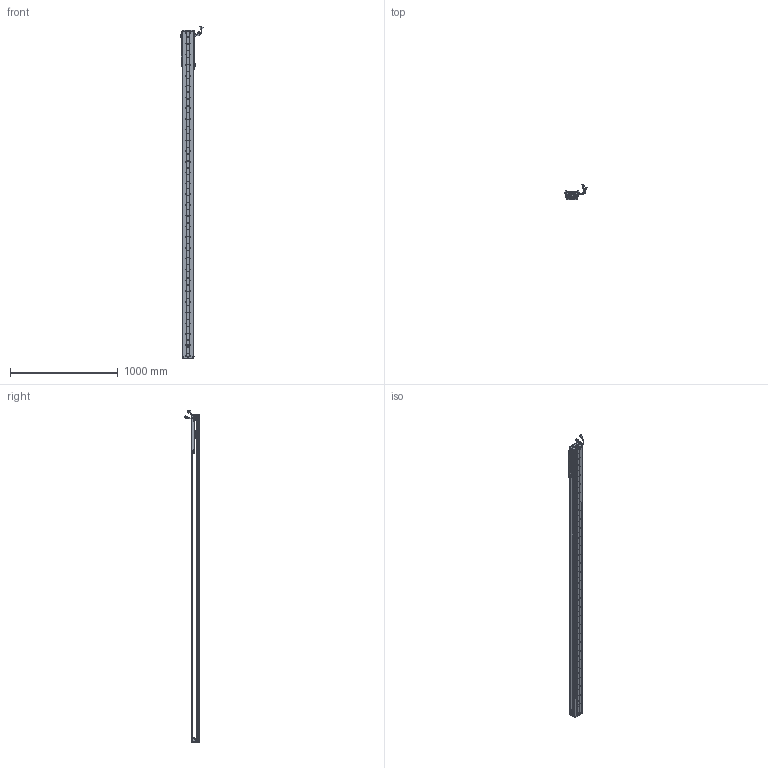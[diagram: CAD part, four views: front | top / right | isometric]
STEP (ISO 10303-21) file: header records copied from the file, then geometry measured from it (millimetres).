
FILE_DESCRIPTION (( 'STEP AP203' ), '1' );
FILE_NAME ('Z4-RY100D-1-L500-B-K.SLDASM_2650.step', '2021-05-17T03:04:51', ( '盈信电脑' ), ( '东莞市道滘镇水果街19号' ), 'SwSTEP 2.0', 'SolidWorks 2016', '' );
FILE_SCHEMA (( 'CONFIG_CONTROL_DESIGN' ));
Length unit declared in the file: millimetre
Products named in the file (36): Z-RY100D覜茼んえ; SHIELDPLATE; Z4-RY100D-500-倰第菁釱_2650; 140蚥薯蝶輸; SCALE; Z-RY100D詩湍狟揤裔; 100-Z-臏賑輸盄裔(21遴); Z4-RY100-L500詩湍90mm遵_2650; LABEL-Part-1; 140雄赽晤鎢ん堤盄; SCREW-M1.6; Z4-RY100D-1-L500-B-K.SLDASM_2650; HARNESS; 覜茼ん672; HARNESS-Part-2; PBU_SHEET; SCREW-M1.6-3; 榋妏寠巭燃_暯_M2_2; HARNESS-Part-1; SCREW-M1.6-1; SCREW-M1.7-1; LABEL; SCALE-Part-1; HOLDER0; 080黍杅芛假蚾釱21遴; Z4-RY100铝滑块（21款）; SCALE-Part-2; SCREW-M1.6-2; PSLH080_PSLF2; SCREW-M1.7; COVER; SEAL-Part-1; COVER-Part-1; Z-RY100D詩湍奻揤裔; SEAL; Z-100詩湍傷裔啣
Assembly tree (43 placements, depth 4):
  Z4-RY100D-1-L500-B-K.SLDASM_2650
    Z4-RY100D-500-倰第菁釱_2650
    Z4-RY100铝滑块（21款）
    PSLH080_PSLF2
      SCALE
        SCALE-Part-1
        SCALE-Part-2
      HARNESS
        HARNESS-Part-1
        HARNESS-Part-2
      LABEL
        LABEL-Part-1
      COVER
        COVER-Part-1
      SEAL
        SEAL-Part-1
      榋妏寠巭燃_暯_M2_2
      SHIELDPLATE
      SCREW-M1.7
      SCREW-M1.7-1
      PBU_SHEET
      SCREW-M1.6
      SCREW-M1.6-1
      SCREW-M1.6-2
      SCREW-M1.6-3
      HOLDER0
    080黍杅芛假蚾釱21遴
    Z-100詩湍傷裔啣  x2
    140蚥薯蝶輸  x2
    覜茼ん672  x3
    Z-RY100D覜茼んえ  x3
    100-Z-臏賑輸盄裔(21遴)
    140雄赽晤鎢ん堤盄
    Z4-RY100-L500詩湍90mm遵_2650
    Z-RY100D詩湍狟揤裔  x2
    Z-RY100D詩湍奻揤裔  x2
Bounding box: 205.79 x 136.11 x 3085.43 mm (x, y, z)
Volume: 5662082.5 mm3; surface area: 2220905.6 mm2
Topology: 38 solids, 38 shells, 3134 faces, 8623 edges, 5516 vertices
Faces by surface type: cylinder 1582, plane 1204, cone 226, torus 69, bspline 53
Entity records: 91999 total; most frequent: CARTESIAN_POINT 19234, DIRECTION 14899, ORIENTED_EDGE 14126, EDGE_CURVE 7063, AXIS2_PLACEMENT_3D 5629, VERTEX_POINT 4584, VECTOR 3641, LINE 3641
